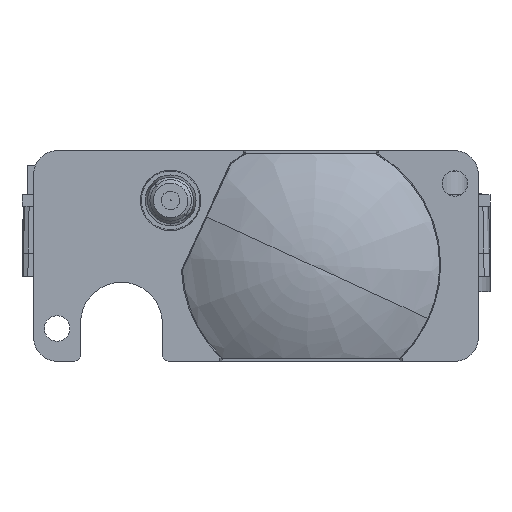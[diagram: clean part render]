
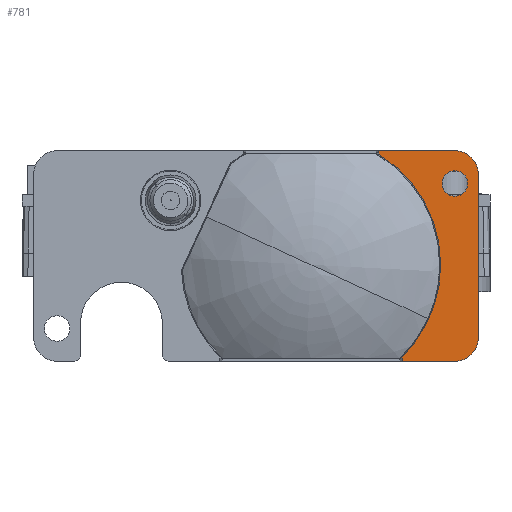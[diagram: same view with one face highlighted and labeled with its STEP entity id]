
A CAD part, front view. The second image highlights one B-rep face of the part: STEP entity #781.
In plain terms, the highlighted planar face has unit normal (0, -1, 0).
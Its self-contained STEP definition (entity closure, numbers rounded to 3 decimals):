
#90=FACE_BOUND('',#2703,.T.);
#781=ADVANCED_FACE('',(#1712,#90),#15915,.T.);
#1712=FACE_OUTER_BOUND('',#2702,.T.);
#2702=EDGE_LOOP('',(#6726,#6727,#6728,#6729,#6730,#6731,#6732,#6733,#6734,
#6735,#6736));
#2703=EDGE_LOOP('',(#6737,#6738));
#6726=ORIENTED_EDGE('',*,*,#10002,.F.);
#6727=ORIENTED_EDGE('',*,*,#10001,.F.);
#6728=ORIENTED_EDGE('',*,*,#9986,.F.);
#6729=ORIENTED_EDGE('',*,*,#10009,.T.);
#6730=ORIENTED_EDGE('',*,*,#10008,.T.);
#6731=ORIENTED_EDGE('',*,*,#10027,.T.);
#6732=ORIENTED_EDGE('',*,*,#10007,.T.);
#6733=ORIENTED_EDGE('',*,*,#10006,.T.);
#6734=ORIENTED_EDGE('',*,*,#10005,.T.);
#6735=ORIENTED_EDGE('',*,*,#9931,.F.);
#6736=ORIENTED_EDGE('',*,*,#10004,.F.);
#6737=ORIENTED_EDGE('',*,*,#10647,.T.);
#6738=ORIENTED_EDGE('',*,*,#10644,.T.);
#9931=EDGE_CURVE('',#14814,#14813,#12368,.T.);
#9986=EDGE_CURVE('',#14897,#14896,#12412,.T.);
#10001=EDGE_CURVE('',#14896,#14913,#13092,.T.);
#10002=EDGE_CURVE('',#14913,#14914,#12426,.T.);
#10004=EDGE_CURVE('',#14914,#14814,#13093,.T.);
#10005=EDGE_CURVE('',#14915,#14813,#12428,.T.);
#10006=EDGE_CURVE('',#14916,#14915,#12429,.T.);
#10007=EDGE_CURVE('',#14917,#14916,#13094,.T.);
#10008=EDGE_CURVE('',#14919,#14918,#12430,.T.);
#10009=EDGE_CURVE('',#14897,#14919,#12431,.T.);
#10027=EDGE_CURVE('',#14918,#14917,#13098,.T.);
#10644=EDGE_CURVE('',#14920,#14921,#13245,.T.);
#10647=EDGE_CURVE('',#14921,#14920,#13247,.T.);
#12368=B_SPLINE_CURVE_WITH_KNOTS('',1,(#27685,#27686),.UNSPECIFIED.,.F.,
 .F.,(2,2),(-4.52,0.),.UNSPECIFIED.);
#12412=B_SPLINE_CURVE_WITH_KNOTS('',1,(#27881,#27882),.UNSPECIFIED.,.F.,
 .F.,(2,2),(-6.525,0.),.UNSPECIFIED.);
#12426=B_SPLINE_CURVE_WITH_KNOTS('',1,(#27939,#27940),.UNSPECIFIED.,.F.,
 .F.,(2,2),(-14.,0.),.UNSPECIFIED.);
#12428=B_SPLINE_CURVE_WITH_KNOTS('',1,(#27946,#27947),.UNSPECIFIED.,.F.,
 .F.,(2,2),(-0.273,0.),.UNSPECIFIED.);
#12429=B_SPLINE_CURVE_WITH_KNOTS('',3,(#27948,#27949,#27950,#27951,#27952,
#27953),.UNSPECIFIED.,.F.,.F.,(4,1,1,4),(-0.159,-0.106,
-0.053,0.),.UNSPECIFIED.);
#12430=B_SPLINE_CURVE_WITH_KNOTS('',3,(#27957,#27958,#27959,#27960,#27961,
#27962),.UNSPECIFIED.,.F.,.F.,(4,1,1,4),(-0.205,-0.137,
-0.068,0.),.UNSPECIFIED.);
#12431=B_SPLINE_CURVE_WITH_KNOTS('',1,(#27963,#27964),.UNSPECIFIED.,.F.,
 .F.,(2,2),(-0.179,0.),.UNSPECIFIED.);
#13092=TRIMMED_CURVE($,#13421,(#27937),(#27938),.T.,.CARTESIAN.);
#13093=TRIMMED_CURVE($,#13422,(#27944),(#27945),.T.,.CARTESIAN.);
#13094=TRIMMED_CURVE($,#13423,(#27955),(#27956),.T.,.CARTESIAN.);
#13098=TRIMMED_CURVE($,#13427,(#28025),(#28026),.T.,.CARTESIAN.);
#13245=TRIMMED_CURVE($,#13574,(#30306),(#30307),.T.,.CARTESIAN.);
#13247=TRIMMED_CURVE($,#13576,(#30314),(#30315),.T.,.CARTESIAN.);
#13421=CIRCLE('',#17340,2.);
#13422=CIRCLE('',#17341,2.);
#13423=CIRCLE('',#17342,11.083);
#13427=CIRCLE('',#17346,11.083);
#13574=CIRCLE('',#17493,1.1);
#13576=CIRCLE('',#17495,1.1);
#14813=VERTEX_POINT('',#27152);
#14814=VERTEX_POINT('',#27153);
#14896=VERTEX_POINT('',#27235);
#14897=VERTEX_POINT('',#27236);
#14913=VERTEX_POINT('',#27252);
#14914=VERTEX_POINT('',#27253);
#14915=VERTEX_POINT('',#27254);
#14916=VERTEX_POINT('',#27255);
#14917=VERTEX_POINT('',#27256);
#14918=VERTEX_POINT('',#27257);
#14919=VERTEX_POINT('',#27258);
#14920=VERTEX_POINT('',#27259);
#14921=VERTEX_POINT('',#27260);
#15915=PLANE('',#17119);
#17119=AXIS2_PLACEMENT_3D('',#25937,#18446,$);
#17340=AXIS2_PLACEMENT_3D($,#27936,#18681,#18682);
#17341=AXIS2_PLACEMENT_3D($,#27943,#18683,#18684);
#17342=AXIS2_PLACEMENT_3D($,#27954,#18685,#18686);
#17346=AXIS2_PLACEMENT_3D($,#28024,#18693,#18694);
#17493=AXIS2_PLACEMENT_3D($,#30305,#18987,#18988);
#17495=AXIS2_PLACEMENT_3D($,#30313,#18991,#18992);
#18446=DIRECTION('',(0.,-1.,0.));
#18681=DIRECTION('',(0.,1.,0.));
#18682=DIRECTION('',(0.,0.,1.));
#18683=DIRECTION('',(0.,1.,0.));
#18684=DIRECTION('',(1.,0.,0.));
#18685=DIRECTION('',(0.,1.,0.));
#18686=DIRECTION('',(1.,0.,0.));
#18693=DIRECTION('',(0.,1.,0.));
#18694=DIRECTION('',(0.53,0.,0.848));
#18987=DIRECTION('',(0.,1.,0.));
#18988=DIRECTION('',(1.,0.,0.));
#18991=DIRECTION('',(0.,1.,0.));
#18992=DIRECTION('',(-1.,0.,0.));
#25937=CARTESIAN_POINT('',(15.22,-30.314,29.817));
#27152=CARTESIAN_POINT('',(7.78,-30.314,9.95));
#27153=CARTESIAN_POINT('',(12.3,-30.314,9.95));
#27235=CARTESIAN_POINT('',(12.3,-30.314,27.95));
#27236=CARTESIAN_POINT('',(5.775,-30.314,27.95));
#27252=CARTESIAN_POINT('',(14.3,-30.314,25.95));
#27253=CARTESIAN_POINT('',(14.3,-30.314,11.95));
#27254=CARTESIAN_POINT('',(7.78,-30.314,10.223));
#27255=CARTESIAN_POINT('',(7.839,-30.314,10.366));
#27256=CARTESIAN_POINT('',(11.083,-30.314,18.2));
#27257=CARTESIAN_POINT('',(5.87,-30.314,27.601));
#27258=CARTESIAN_POINT('',(5.775,-30.314,27.771));
#27259=CARTESIAN_POINT('',(13.4,-30.314,25.15));
#27260=CARTESIAN_POINT('',(11.2,-30.314,25.15));
#27685=CARTESIAN_POINT('',(12.3,-30.314,9.95));
#27686=CARTESIAN_POINT('',(7.78,-30.314,9.95));
#27881=CARTESIAN_POINT('',(5.775,-30.314,27.95));
#27882=CARTESIAN_POINT('',(12.3,-30.314,27.95));
#27936=CARTESIAN_POINT('',(12.3,-30.314,25.95));
#27937=CARTESIAN_POINT('',(12.3,-30.314,27.95));
#27938=CARTESIAN_POINT('',(14.3,-30.314,25.95));
#27939=CARTESIAN_POINT('',(14.3,-30.314,25.95));
#27940=CARTESIAN_POINT('',(14.3,-30.314,11.95));
#27943=CARTESIAN_POINT('',(12.3,-30.314,11.95));
#27944=CARTESIAN_POINT('',(14.3,-30.314,11.95));
#27945=CARTESIAN_POINT('',(12.3,-30.314,9.95));
#27946=CARTESIAN_POINT('',(7.78,-30.314,10.223));
#27947=CARTESIAN_POINT('',(7.78,-30.314,9.95));
#27948=CARTESIAN_POINT('',(7.839,-30.314,10.366));
#27949=CARTESIAN_POINT('',(7.827,-30.314,10.353));
#27950=CARTESIAN_POINT('',(7.805,-30.314,10.325));
#27951=CARTESIAN_POINT('',(7.784,-30.314,10.276));
#27952=CARTESIAN_POINT('',(7.78,-30.314,10.241));
#27953=CARTESIAN_POINT('',(7.78,-30.314,10.223));
#27954=CARTESIAN_POINT('',(0.,-30.314,18.2));
#27955=CARTESIAN_POINT('',(11.083,-30.314,18.2));
#27956=CARTESIAN_POINT('',(7.839,-30.314,10.366));
#27957=CARTESIAN_POINT('',(5.775,-30.314,27.771));
#27958=CARTESIAN_POINT('',(5.775,-30.314,27.748));
#27959=CARTESIAN_POINT('',(5.783,-30.314,27.703));
#27960=CARTESIAN_POINT('',(5.816,-30.314,27.643));
#27961=CARTESIAN_POINT('',(5.851,-30.314,27.613));
#27962=CARTESIAN_POINT('',(5.87,-30.314,27.601));
#27963=CARTESIAN_POINT('',(5.775,-30.314,27.95));
#27964=CARTESIAN_POINT('',(5.775,-30.314,27.771));
#28024=CARTESIAN_POINT('',(0.,-30.314,18.2));
#28025=CARTESIAN_POINT('',(5.87,-30.314,27.601));
#28026=CARTESIAN_POINT('',(11.083,-30.314,18.2));
#30305=CARTESIAN_POINT('',(12.3,-30.314,25.15));
#30306=CARTESIAN_POINT('',(13.4,-30.314,25.15));
#30307=CARTESIAN_POINT('',(11.2,-30.314,25.15));
#30313=CARTESIAN_POINT('',(12.3,-30.314,25.15));
#30314=CARTESIAN_POINT('',(11.2,-30.314,25.15));
#30315=CARTESIAN_POINT('',(13.4,-30.314,25.15));
